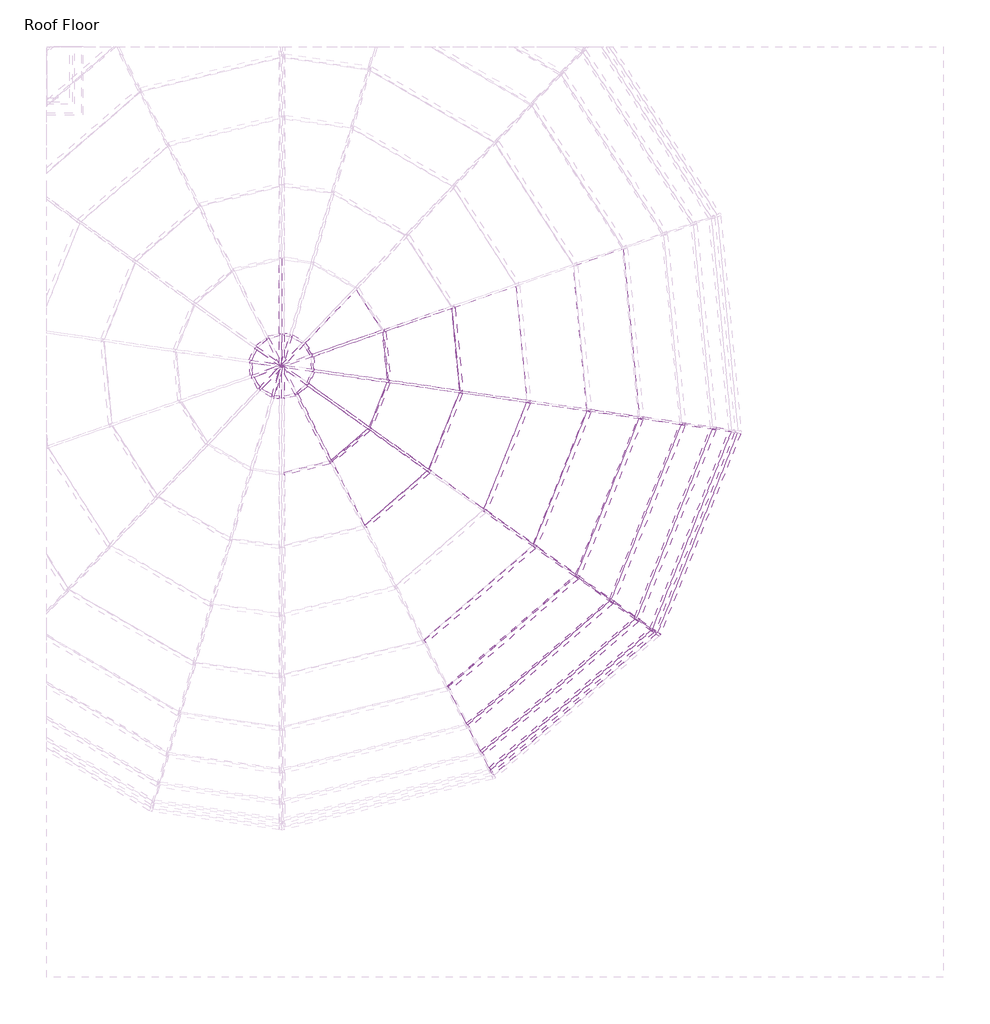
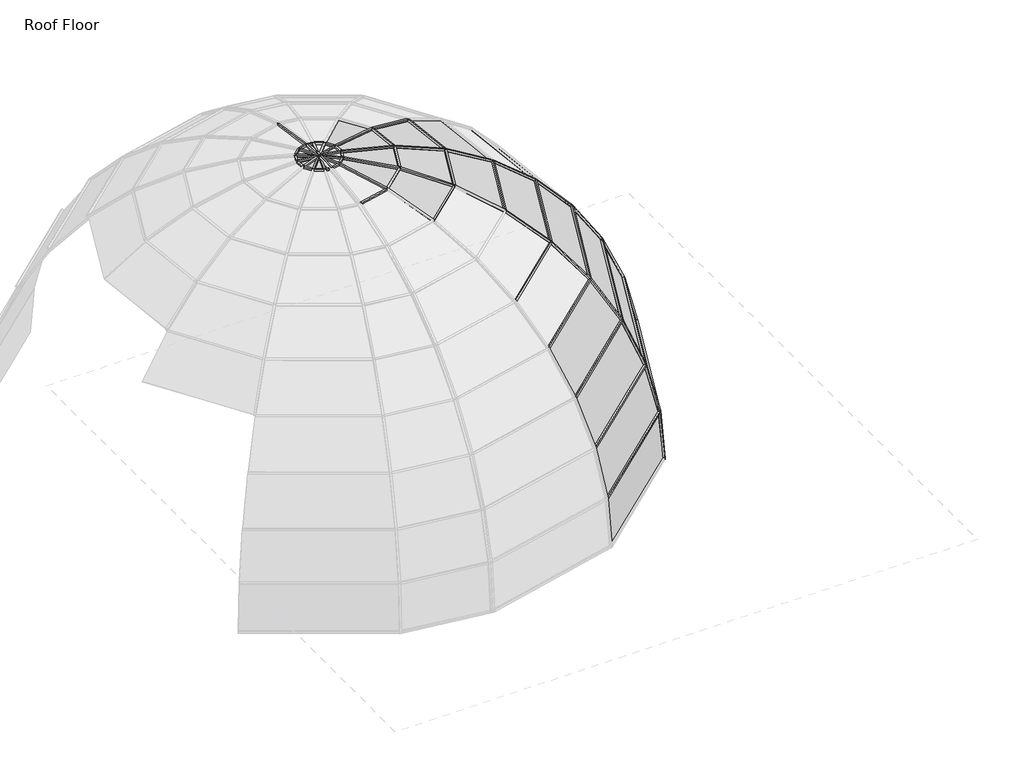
# One storey, part 3 of 5: 68 members, 25 plates.
"""IFC4 building model written with IfcOpenShell, lengths in millimetres."""

from ifc_helpers import new_model, si_unit, origin, place, context, project, spatial, transform, mapped, element, save
from components import member_e5884c93, member_1644e863, member_ecfbb555, member_3542fcca, member_2c5cd547, member_c2b6c823, member_dee8aa16, member_df6d12cb, member_6952dcc5, member_16c772f1, member_16816f3b, member_95e271e4, member_1143d828, member_7f7bd10d, member_27f65fe7, member_dc070f92, member_3534141e, member_d896c3fe, member_8ccf5568, member_fbc4017a, system_panel_glazed_e103372f, system_panel_glazed_c16507b5, system_panel_glazed_afa622ac, system_panel_glazed_079f8796, system_panel_glazed_c9cd471f, system_panel_glazed_44273b71, system_panel_glazed_224b1453, system_panel_glazed_17e44092, system_panel_glazed_1d538f7b, system_panel_glazed_72ef945e, system_panel_glazed_cac35f12, system_panel_glazed_1ef52394, system_panel_glazed_6927b413, system_panel_glazed_f7af2f91

model = new_model("IFC4")

# Units and contexts
model_context = context("Model", 3, world=origin())
ifc_project = project(units=[si_unit("LENGTHUNIT", "METRE", prefix="MILLI")], contexts=[model_context])

# Site, building, storey
site = spatial("IfcSite", under=ifc_project)
building = spatial("IfcBuilding", under=site)
storey = spatial("IfcBuildingStorey", under=building, Name="Roof Floor", Elevation=15240.0)

# Members
placement = place(None, origin())
member_shape = member_e5884c93(model_context)
element("IfcMember", 1, ObjectType="Rectangular Mullion : 1\" Square", at=placement, inside=storey, context=model_context, shape_type="MappedRepresentation", body=[
    mapped(member_shape, transform((443.8592683, -2777.9023232, 21117.9670279), x_axis=(-0.41239046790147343, 0.4760922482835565, 0.7767047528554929), y_axis=(0.5085307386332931, -0.5870832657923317, 0.6298648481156), z_axis=(0.7558641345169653, 0.6547285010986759, 0.0))),
])
element("IfcMember", 2, ObjectType="Rectangular Mullion : 1\" Square", at=placement, inside=storey, context=model_context, shape_type="MappedRepresentation", body=[
    mapped(member_shape, transform((1078.3289079, -1210.0551724, 21117.9670279), x_axis=(-0.5846780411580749, 0.23426761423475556, 0.7767047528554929), y_axis=(0.7209835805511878, -0.28888224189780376, 0.6298648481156), z_axis=(0.37193314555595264, 0.9282595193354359, 0.0))),
])
member_2_shape = member_1644e863(model_context)
element("IfcMember", 3, ObjectType="Rectangular Mullion : 1\" Square", at=placement, inside=storey, context=model_context, shape_type="MappedRepresentation", body=[
    mapped(member_2_shape, transform((786.0441912, -3021.6914235, 20482.2624164), x_axis=(-0.32116850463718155, 0.370779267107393, 0.8714204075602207), y_axis=(0.5705437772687, -0.6586754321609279, 0.4905369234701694), z_axis=(0.7558641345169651, 0.6547285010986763, 0.0))),
])
element("IfcMember", 4, ObjectType="Rectangular Mullion : 1\" Square", at=placement, inside=storey, context=model_context, shape_type="MappedRepresentation", body=[
    mapped(member_2_shape, transform((1494.1786406, -1269.9938637, 20482.2624164), x_axis=(-0.4553455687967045, 0.1824469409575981, 0.8714204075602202), y_axis=(0.8089042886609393, -0.3241101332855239, 0.49053692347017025), z_axis=(0.3719331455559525, 0.928259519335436, 0.0))),
])
member_3_shape = member_ecfbb555(model_context)
element("IfcMember", 5, ObjectType="Rectangular Mullion : 1\" Square", at=placement, inside=storey, context=model_context, shape_type="MappedRepresentation", body=[
    mapped(member_3_shape, transform((1037.4860785, -3200.8307935, 19785.6060711), x_axis=(-0.21998759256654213, 0.25396898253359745, 0.9418626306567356), y_axis=(0.61666430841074, -0.711920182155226, 0.3359981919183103), z_axis=(0.7558641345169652, 0.6547285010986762, 0.0))),
])
element("IfcMember", 6, ObjectType="Rectangular Mullion : 1\" Square", at=placement, inside=storey, context=model_context, shape_type="MappedRepresentation", body=[
    mapped(member_3_shape, transform((1799.7503787, -1314.0375859, 19785.6060711), x_axis=(-0.3118935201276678, 0.12496886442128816, 0.9418626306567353), y_axis=(0.8742929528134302, -0.3503099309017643, 0.3359981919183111), z_axis=(0.3719331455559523, 0.928259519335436, 0.0))),
])
member_4_shape = member_3542fcca(model_context)
element("IfcMember", 7, ObjectType="Rectangular Mullion : 1\" Square", at=placement, inside=storey, context=model_context, shape_type="MappedRepresentation", body=[
    mapped(member_4_shape, transform((1191.2004334, -3310.3443394, 19047.3495572), x_axis=(-0.1118037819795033, 0.12907406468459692, 0.9853120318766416), y_axis=(0.6451118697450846, -0.7447620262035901, 0.17076357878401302), z_axis=(0.755864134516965, 0.6547285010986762, 0.0))),
])
element("IfcMember", 8, ObjectType="Rectangular Mullion : 1\" Square", at=placement, inside=storey, context=model_context, shape_type="MappedRepresentation", body=[
    mapped(member_4_shape, transform((1986.5560183, -1340.9629021, 19047.3495572), x_axis=(-0.1585129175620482, 0.0635126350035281, 0.9853120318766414), y_axis=(0.9146252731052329, -0.36647020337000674, 0.17076357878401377), z_axis=(0.37193314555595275, 0.928259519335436, 0.0))),
])
member_5_shape = member_2c5cd547(model_context)
element("IfcMember", 9, ObjectType="Rectangular Mullion : 1\" Square", at=placement, inside=storey, context=model_context, shape_type="MappedRepresentation", body=[
    mapped(member_5_shape, transform((-2778.6228692, -629.1922106, 22849.1034008), x_axis=(0.9261696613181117, -0.37109578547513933, 0.0670647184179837), y_axis=(-0.062253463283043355, 0.024943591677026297, 0.9977486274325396), z_axis=(-0.37193314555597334, -0.9282595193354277, 0.0))),
])
element("IfcMember", 10, ObjectType="Rectangular Mullion : 1\" Square", at=placement, inside=storey, context=model_context, shape_type="MappedRepresentation", body=[
    mapped(member_5_shape, transform((-2718.4357175, -494.6219605, 22849.1034008), x_axis=(0.6532544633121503, -0.754162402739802, 0.06706471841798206), y_axis=(-0.04390918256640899, 0.05069181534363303, 0.9977486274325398), z_axis=(-0.7558641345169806, -0.6547285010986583, 0.0))),
])
element("IfcMember", 11, ObjectType="Rectangular Mullion : 1\" Square", at=placement, inside=storey, context=model_context, shape_type="MappedRepresentation", body=[
    mapped(member_5_shape, transform((-2571.1893455, -982.2556366, 22849.1034008), x_axis=(0.4994285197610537, 0.863755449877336, 0.06706471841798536), y_axis=(-0.03356961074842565, -0.05805822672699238, 0.9977486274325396), z_axis=(0.865704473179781, -0.5005554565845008, 0.0))),
])
element("IfcMember", 12, ObjectType="Rectangular Mullion : 1\" Square", at=placement, inside=storey, context=model_context, shape_type="MappedRepresentation", body=[
    mapped(member_5_shape, transform((-2695.796785, -903.4861534, 22849.1034008), x_axis=(0.83964256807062, 0.5389830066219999, 0.06706471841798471), y_axis=(-0.0564374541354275, -0.03622830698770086, 0.9977486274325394), z_axis=(0.5401991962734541, -0.841537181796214, 0.0))),
])
element("IfcMember", 13, ObjectType="Rectangular Mullion : 1\" Square", at=placement, inside=storey, context=model_context, shape_type="MappedRepresentation", body=[
    mapped(member_5_shape, transform((-2770.4728536, -776.38332, 22849.1034008), x_axis=(0.9932693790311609, 0.0944365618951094, 0.06706471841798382), y_axis=(-0.06676364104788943, -0.006347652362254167, 0.9977486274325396), z_axis=(0.09464965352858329, -0.9955106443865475, 0.0))),
])
element("IfcMember", 14, ObjectType="Rectangular Mullion : 1\" Square", at=placement, inside=storey, context=model_context, shape_type="MappedRepresentation", body=[
    mapped(member_5_shape, transform((-2223.7755139, -877.3501947, 22849.1034008), x_axis=(-0.6532544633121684, 0.7541624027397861, 0.0670647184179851), y_axis=(0.043909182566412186, -0.05069181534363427, 0.9977486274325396), z_axis=(0.7558641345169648, 0.6547285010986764, 0.0))),
])
element("IfcMember", 15, ObjectType="Rectangular Mullion : 1\" Square", at=placement, inside=storey, context=model_context, shape_type="MappedRepresentation", body=[
    mapped(member_5_shape, transform((-2163.5883622, -742.7799446, 22849.1034008), x_axis=(-0.9261696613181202, 0.37109578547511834, 0.06706471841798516), y_axis=(0.06225346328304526, -0.02494359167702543, 0.9977486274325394), z_axis=(0.3719331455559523, 0.928259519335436, 0.0))),
])
element("IfcMember", 16, ObjectType="Rectangular Mullion : 1\" Square", at=placement, inside=storey, context=model_context, shape_type="MappedRepresentation", body=[
    mapped(member_5_shape, transform((-2171.7383778, -595.5888351, 22849.1034008), x_axis=(-0.9932693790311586, -0.09443656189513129, 0.06706471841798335), y_axis=(0.06676364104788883, 0.006347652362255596, 0.9977486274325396), z_axis=(-0.09464965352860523, 0.9955106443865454, 0.0))),
])
element("IfcMember", 17, ObjectType="Rectangular Mullion : 1\" Square", at=placement, inside=storey, context=model_context, shape_type="MappedRepresentation", body=[
    mapped(member_5_shape, transform((-2246.4144464, -468.4860018, 22849.1034008), x_axis=(-0.8396425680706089, -0.5389830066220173, 0.06706471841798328), y_axis=(0.05643745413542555, 0.036228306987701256, 0.9977486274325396), z_axis=(-0.5401991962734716, 0.8415371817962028, 0.0))),
])
element("IfcMember", 18, ObjectType="Rectangular Mullion : 1\" Square", at=placement, inside=storey, context=model_context, shape_type="MappedRepresentation", body=[
    mapped(member_5_shape, transform((-2371.0218859, -389.7165186, 22849.1034008), x_axis=(-0.49942851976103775, -0.8637554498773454, 0.06706471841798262), y_axis=(0.03356961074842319, 0.05805822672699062, 0.9977486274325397), z_axis=(-0.86570447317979, 0.5005554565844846, 0.0))),
])
member_6_shape = member_c2b6c823(model_context)
element("IfcMember", 19, ObjectType="Rectangular Mullion : 1\" Square", at=placement, inside=storey, context=model_context, shape_type="MappedRepresentation", body=[
    mapped(member_6_shape, transform((-2603.2863208, -402.5770697, 22849.1034008), x_axis=(0.23517160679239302, -0.9696373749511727, 0.06706471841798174), y_axis=(-0.015807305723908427, 0.0651751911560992, 0.9977486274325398), z_axis=(-0.9718253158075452, -0.2357022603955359, 0.0))),
])
element("IfcMember", 20, ObjectType="Rectangular Mullion : 1\" Square", at=placement, inside=storey, context=model_context, shape_type="MappedRepresentation", body=[
    mapped(member_6_shape, transform((-2338.9249106, -969.3950855, 22849.1034008), x_axis=(-0.23517160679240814, 0.9696373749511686, 0.06706471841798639), y_axis=(0.015807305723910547, -0.06517519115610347, 0.9977486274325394), z_axis=(0.9718253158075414, 0.23570226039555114, 0.0))),
])
member_7_shape = member_dee8aa16(model_context)
element("IfcMember", 21, ObjectType="Rectangular Mullion : 1\" Square", at=placement, inside=storey, context=model_context, shape_type="MappedRepresentation", body=[
    mapped(member_7_shape, transform((-1610.3728189, -1314.3679625, 22733.3596998), x_axis=(-0.6375613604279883, 0.7360451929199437, 0.22749282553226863), y_axis=(0.14894603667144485, -0.1719536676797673, 0.9737797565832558), z_axis=(0.7558641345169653, 0.6547285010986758, 0.0))),
])
element("IfcMember", 22, ObjectType="Rectangular Mullion : 1\" Square", at=placement, inside=storey, context=model_context, shape_type="MappedRepresentation", body=[
    mapped(member_7_shape, transform((-1418.133698, -850.2263934, 22733.3596998), x_axis=(-0.9039203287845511, 0.3621809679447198, 0.2274928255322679), y_axis=(0.21117238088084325, -0.08461212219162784, 0.973779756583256), z_axis=(0.3719331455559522, 0.9282595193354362, 0.0))),
])
element("IfcMember", 23, ObjectType="Rectangular Mullion : 1\" Square", at=placement, inside=storey, context=model_context, shape_type="MappedRepresentation", body=[
    mapped(member_7_shape, transform((-1459.8883366, -349.5869764, 22733.3596998), x_axis=(-0.9694081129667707, -0.09216791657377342, 0.22749282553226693), y_axis=(0.22647152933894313, 0.021532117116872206, 0.9737797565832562), z_axis=(-0.09464965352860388, 0.9955106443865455, 0.0))),
])
member_8_shape = member_df6d12cb(model_context)
element("IfcMember", 24, ObjectType="Rectangular Mullion : 1\" Square", at=placement, inside=storey, context=model_context, shape_type="MappedRepresentation", body=[
    mapped(member_8_shape, transform((-1993.8858946, -1638.8691127, 22733.3596998), x_axis=(-0.2295220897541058, 0.9463438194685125, 0.22749282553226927), y_axis=(0.053620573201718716, -0.22108328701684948, 0.9737797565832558), z_axis=(0.9718253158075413, 0.23570226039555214, 0.0))),
])
member_9_shape = member_6952dcc5(model_context)
element("IfcMember", 25, ObjectType="Rectangular Mullion : 1\" Square", at=placement, inside=storey, context=model_context, shape_type="MappedRepresentation", body=[
    mapped(member_9_shape, transform((1257.240438, -3327.0860706, 18288.0), x_axis=(0.07519001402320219, -0.030126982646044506, -0.9967140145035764), y_axis=(0.9252092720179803, -0.3707109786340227, 0.08100106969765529), z_axis=(-0.3719331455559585, -0.9282595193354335, 0.0))),
])
member_10_shape = member_16c772f1(model_context)
element("IfcMember", 26, ObjectType="Rectangular Mullion : 1\" Square", at=placement, inside=storey, context=model_context, shape_type="MappedRepresentation", body=[
    mapped(member_10_shape, transform((-1021.1460202, -1734.1616515, 22494.1337848), x_axis=(-0.6049222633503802, 0.6983643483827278, 0.3825654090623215), y_axis=(0.250476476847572, -0.28916747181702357, 0.923928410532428), z_axis=(0.7558641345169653, 0.6547285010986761, 0.0))),
])
element("IfcMember", 27, ObjectType="Rectangular Mullion : 1\" Square", at=placement, inside=storey, context=model_context, shape_type="MappedRepresentation", body=[
    mapped(member_10_shape, transform((-702.0594635, -953.4380805, 22494.1337848), x_axis=(-0.8576453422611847, 0.3436395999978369, 0.3825654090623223), y_axis=(0.3551199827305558, -0.1422887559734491, 0.9239284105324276), z_axis=(0.37193314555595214, 0.9282595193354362, 0.0))),
])
element("IfcMember", 28, ObjectType="Rectangular Mullion : 1\" Square", at=placement, inside=storey, context=model_context, shape_type="MappedRepresentation", body=[
    mapped(member_10_shape, transform((-776.094274, -113.2807311, 22494.1337848), x_axis=(-0.9197805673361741, -0.08744950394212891, 0.38256540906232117), y_axis=(0.38084793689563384, 0.036209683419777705, 0.9239284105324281), z_axis=(-0.09464965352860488, 0.9955106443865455, 0.0))),
])
member_11_shape = member_16816f3b(model_context)
element("IfcMember", 29, ObjectType="Rectangular Mullion : 1\" Square", at=placement, inside=storey, context=model_context, shape_type="MappedRepresentation", body=[
    mapped(member_11_shape, transform((-35.2566097, -1049.5480147, 22138.0708204), x_axis=(-0.7880786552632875, 0.31576576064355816, 0.5284165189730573), y_axis=(0.49050766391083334, -0.19653561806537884, 0.8489852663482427), z_axis=(0.3719331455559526, 0.928259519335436, 0.0))),
])
member_12_shape = member_95e271e4(model_context)
element("IfcMember", 30, ObjectType="Rectangular Mullion : 1\" Square", at=placement, inside=storey, context=model_context, shape_type="MappedRepresentation", body=[
    mapped(member_12_shape, transform((20.4364465, -2476.2354119, 21675.0614442), x_axis=(-0.49123616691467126, 0.567117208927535, 0.6611089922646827), y_axis=(0.4328468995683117, -0.49970857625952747, 0.7502898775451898), z_axis=(0.7558641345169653, 0.6547285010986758, 0.0))),
])
element("IfcMember", 31, ObjectType="Rectangular Mullion : 1\" Square", at=placement, inside=storey, context=model_context, shape_type="MappedRepresentation", body=[
    mapped(member_12_shape, transform((563.752562, -1135.8864755, 21675.0614442), x_axis=(-0.6964637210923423, 0.2790576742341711, 0.661108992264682), y_axis=(0.6136807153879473, -0.245888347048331, 0.7502898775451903), z_axis=(0.3719331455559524, 0.9282595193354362, 0.0))),
])
member_13_shape = member_1143d828(model_context)
element("IfcMember", 32, ObjectType="Rectangular Mullion : 1\" Square", at=placement, inside=storey, context=model_context, shape_type="MappedRepresentation", body=[
    mapped(member_13_shape, transform((-2496.2458139, -997.8300214, 22849.1034008), x_axis=(0.1423280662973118, 0.9874604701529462, 0.06829744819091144), y_axis=(-0.00974339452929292, -0.06759887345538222, 0.9976650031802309), z_axis=(0.9897715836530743, -0.14266117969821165, 0.0))),
])
element("IfcMember", 33, ObjectType="Rectangular Mullion : 1\" Square", at=placement, inside=storey, context=model_context, shape_type="MappedRepresentation", body=[
    mapped(member_13_shape, transform((-2445.9654175, -374.1421337, 22849.1034008), x_axis=(-0.14232806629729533, -0.9874604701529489, 0.06829744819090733), y_axis=(0.009743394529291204, 0.06759887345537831, 0.9976650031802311), z_axis=(-0.9897715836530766, 0.1426611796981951, 0.0))),
])
member_14_shape = member_7f7bd10d(model_context)
element("IfcMember", 34, ObjectType="Rectangular Mullion : 1\" Square", at=placement, inside=storey, context=model_context, shape_type="MappedRepresentation", body=[
    mapped(member_14_shape, transform((1200.7999079, -3302.0292875, 19047.3495572), x_axis=(0.5802469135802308, 0.8144406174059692, 0.0), y_axis=(0.7890631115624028, -0.5621667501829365, 0.24768518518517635), z_axis=(0.20172487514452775, -0.1437185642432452, -0.9688405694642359))),
])
element("IfcMember", 35, ObjectType="Rectangular Mullion : 1\" Square", at=placement, inside=storey, context=model_context, shape_type="MappedRepresentation", body=[
    mapped(member_14_shape, transform((1047.085553, -3192.5157415, 19785.6060711), x_axis=(0.5802469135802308, 0.8144406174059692, 0.0), y_axis=(0.744600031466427, -0.5304890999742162, 0.4051568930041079), z_axis=(0.32997623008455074, -0.23509103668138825, -0.9142471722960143))),
])
element("IfcMember", 36, ObjectType="Rectangular Mullion : 1\" Square", at=placement, inside=storey, context=model_context, shape_type="MappedRepresentation", body=[
    mapped(member_14_shape, transform((795.6436657, -3013.3763715, 20482.2624164), x_axis=(0.5802469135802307, 0.8144406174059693, 0.0), y_axis=(0.6794536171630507, -0.48407564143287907, 0.551374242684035), z_axis=(0.4490615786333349, -0.3199332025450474, -0.8342580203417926))),
])
element("IfcMember", 37, ObjectType="Rectangular Mullion : 1\" Square", at=placement, inside=storey, context=model_context, shape_type="MappedRepresentation", body=[
    mapped(member_14_shape, transform((453.4587428, -2769.5872712, 21117.9670279), x_axis=(0.5802469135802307, 0.8144406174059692, 0.0), y_axis=(0.595433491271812, -0.42421563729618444, 0.6822756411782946), z_axis=(0.5556729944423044, -0.3958883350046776, -0.7310950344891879))),
])
element("IfcMember", 38, ObjectType="Rectangular Mullion : 1\" Square", at=placement, inside=storey, context=model_context, shape_type="MappedRepresentation", body=[
    mapped(member_14_shape, transform((30.035921, -2467.9203599, 21675.0614442), x_axis=(0.5802469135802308, 0.814440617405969, 0.0), y_axis=(0.4948735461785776, -0.3525718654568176, 0.7942249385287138), z_axis=(0.6468490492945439, -0.4608465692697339, -0.6076238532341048))),
])
element("IfcMember", 39, ObjectType="Rectangular Mullion : 1\" Square", at=placement, inside=storey, context=model_context, shape_type="MappedRepresentation", body=[
    mapped(member_14_shape, transform((-1011.5465457, -1725.8465996, 22494.1337848), x_axis=(0.5802469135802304, 0.8144406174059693, 0.0), y_axis=(0.25568937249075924, -0.18216548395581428, 0.9494412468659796), z_axis=(0.773263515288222, -0.5509103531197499, -0.313944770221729))),
])
element("IfcMember", 40, ObjectType="Rectangular Mullion : 1\" Square", at=placement, inside=storey, context=model_context, shape_type="MappedRepresentation", body=[
    mapped(member_14_shape, transform((1991.2795692, -1329.1740062, 19047.3495572), x_axis=(0.1426611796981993, 0.989771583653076, 0.0), y_axis=(0.9589308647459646, -0.1382159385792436, 0.24768518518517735), z_axis=(0.24515175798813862, -0.03533506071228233, -0.9688405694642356))),
])
element("IfcMember", 41, ObjectType="Rectangular Mullion : 1\" Square", at=placement, inside=storey, context=model_context, shape_type="MappedRepresentation", body=[
    mapped(member_14_shape, transform((1804.4739296, -1302.24869, 19785.6060711), x_axis=(0.14266117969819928, 0.9897715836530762, 0.0), y_axis=(0.9048958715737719, -0.13042758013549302, 0.40515689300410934), z_axis=(0.4010127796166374, -0.05780016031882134, -0.9142471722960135))),
])
element("IfcMember", 42, ObjectType="Rectangular Mullion : 1\" Square", at=placement, inside=storey, context=model_context, shape_type="MappedRepresentation", body=[
    mapped(member_14_shape, transform((1498.9021915, -1258.2049678, 20482.2624164), x_axis=(0.14266117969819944, 0.9897715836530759, 0.0), y_axis=(0.825724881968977, -0.1190162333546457, 0.5513742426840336), z_axis=(0.5457345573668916, -0.0786596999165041, -0.8342580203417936))),
])
element("IfcMember", 43, ObjectType="Rectangular Mullion : 1\" Square", at=placement, inside=storey, context=model_context, shape_type="MappedRepresentation", body=[
    mapped(member_14_shape, transform((1083.0524588, -1198.2662765, 21117.9670279), x_axis=(0.1426611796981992, 0.9897715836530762, 0.0), y_axis=(0.7236170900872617, -0.10429888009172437, 0.6822756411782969), z_axis=(0.6752970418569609, -0.09733424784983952, -0.731095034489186))),
])
element("IfcMember", 44, ObjectType="Rectangular Mullion : 1\" Square", at=placement, inside=storey, context=model_context, shape_type="MappedRepresentation", body=[
    mapped(member_14_shape, transform((568.4761129, -1124.0975796, 21675.0614442), x_axis=(0.1426611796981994, 0.989771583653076, 0.0), y_axis=(0.6014088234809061, -0.08668433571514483, 0.7942249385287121), z_axis=(0.7861012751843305, -0.11330506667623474, -0.607623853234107))),
])
element("IfcMember", 45, ObjectType="Rectangular Mullion : 1\" Square", at=placement, inside=storey, context=model_context, shape_type="MappedRepresentation", body=[
    mapped(member_14_shape, transform((-30.5330588, -1037.7591188, 22138.0708204), x_axis=(0.14266117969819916, 0.9897715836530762, 0.0), y_axis=(0.4624947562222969, -0.0666618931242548, 0.8841124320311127), z_axis=(0.875069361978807, -0.12612852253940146, -0.4672742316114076))),
])
element("IfcMember", 46, ObjectType="Rectangular Mullion : 1\" Square", at=placement, inside=storey, context=model_context, shape_type="MappedRepresentation", body=[
    mapped(member_14_shape, transform((-697.3359126, -941.6491846, 22494.1337848), x_axis=(0.14266117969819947, 0.989771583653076, 0.0), y_axis=(0.31073361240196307, -0.0447877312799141, 0.9494412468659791), z_axis=(0.9397299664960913, -0.1354484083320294, -0.31394477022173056))),
])
element("IfcMember", 47, ObjectType="Rectangular Mullion : 1\" Square", at=placement, inside=storey, context=model_context, shape_type="MappedRepresentation", body=[
    mapped(member_14_shape, transform((-777.2963246, -100.6377459, 22494.1337848), x_axis=(-0.32662703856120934, 0.9451533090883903, 0.0), y_axis=(0.29672593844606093, 0.10254285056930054, 0.94944124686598), z_axis=(0.897367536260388, 0.31011318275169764, -0.31394477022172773))),
])
member_15_shape = member_27f65fe7(model_context)
element("IfcMember", 48, ObjectType="Rectangular Mullion : 1\" Square", at=placement, inside=storey, context=model_context, shape_type="MappedRepresentation", body=[
    mapped(member_15_shape, transform((-1981.5437131, -1635.875694, 22733.3596998), x_axis=(0.8888888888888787, 0.458122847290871, 0.0), y_axis=(0.06958639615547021, -0.13501744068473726, 0.9883966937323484), z_axis=(0.4528071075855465, -0.8785748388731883, -0.1518946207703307))),
])
element("IfcMember", 49, ObjectType="Rectangular Mullion : 1\" Square", at=placement, inside=storey, context=model_context, shape_type="MappedRepresentation", body=[
    mapped(member_15_shape, transform((-1600.7733444, -1306.0529105, 22733.3596998), x_axis=(0.5802469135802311, 0.8144406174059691, 0.0), y_axis=(0.12370914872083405, -0.08813638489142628, 0.9883966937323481), z_axis=(0.8049904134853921, -0.5735141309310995, -0.1518946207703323))),
])
element("IfcMember", 50, ObjectType="Rectangular Mullion : 1\" Square", at=placement, inside=storey, context=model_context, shape_type="MappedRepresentation", body=[
    mapped(member_15_shape, transform((-1413.4101471, -838.4374975, 22733.3596998), x_axis=(0.14266117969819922, 0.9897715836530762, 0.0), y_axis=(0.15034097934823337, -0.021669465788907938, 0.9883966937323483), z_axis=(0.9782869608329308, -0.1410058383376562, -0.1518946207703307))),
])
element("IfcMember", 51, ObjectType="Rectangular Mullion : 1\" Square", at=placement, inside=storey, context=model_context, shape_type="MappedRepresentation", body=[
    mapped(member_15_shape, transform((-1461.0903872, -336.9439912, 22733.3596998), x_axis=(-0.32662703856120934, 0.9451533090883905, 0.0), y_axis=(0.14356370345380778, 0.04961289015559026, 0.9883966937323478), z_axis=(0.9341864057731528, 0.32283708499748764, -0.15189462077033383))),
])
member_16_shape = member_dc070f92(model_context)
element("IfcMember", 52, ObjectType="Rectangular Mullion : 1\" Square", at=placement, inside=storey, context=model_context, shape_type="MappedRepresentation", body=[
    mapped(member_16_shape, transform((-2615.6285023, -405.5704884, 22849.1034008), x_axis=(-0.888888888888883, -0.458122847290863, 0.0), y_axis=(-0.015941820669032, 0.030931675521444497, 0.9993943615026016), z_axis=(-0.45784539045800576, 0.8883505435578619, -0.03479813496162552))),
])
element("IfcMember", 53, ObjectType="Rectangular Mullion : 1\" Square", at=placement, inside=storey, context=model_context, shape_type="MappedRepresentation", body=[
    mapped(member_16_shape, transform((-2728.035192, -502.9370124, 22849.1034008), x_axis=(-0.5802469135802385, -0.8144406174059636, 0.0), y_axis=(-0.028341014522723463, 0.020191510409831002, 0.9993943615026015), z_axis=(-0.8139473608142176, 0.5798954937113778, -0.034798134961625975))),
])
element("IfcMember", 54, ObjectType="Rectangular Mullion : 1\" Square", at=placement, inside=storey, context=model_context, shape_type="MappedRepresentation", body=[
    mapped(member_16_shape, transform((-2783.3464202, -640.9811065, 22849.1034008), x_axis=(-0.14266117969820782, -0.9897715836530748, 0.0), y_axis=(-0.03444220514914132, 0.004964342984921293, 0.9993943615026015), z_axis=(-0.9891721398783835, 0.14257477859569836, -0.034798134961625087))),
])
element("IfcMember", 55, ObjectType="Rectangular Mullion : 1\" Square", at=placement, inside=storey, context=model_context, shape_type="MappedRepresentation", body=[
    mapped(member_16_shape, transform((-2326.582729, -966.4016667, 22849.1034008), x_axis=(0.8888888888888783, 0.45812284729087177, 0.0), y_axis=(0.01594182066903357, -0.030931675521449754, 0.9993943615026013), z_axis=(0.45784539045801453, -0.8883505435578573, -0.034798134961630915))),
])
element("IfcMember", 56, ObjectType="Rectangular Mullion : 1\" Square", at=placement, inside=storey, context=model_context, shape_type="MappedRepresentation", body=[
    mapped(member_16_shape, transform((-2214.1760394, -869.0351427, 22849.1034008), x_axis=(0.5802469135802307, 0.8144406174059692, 0.0), y_axis=(0.028341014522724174, -0.020191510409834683, 0.9993943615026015), z_axis=(0.8139473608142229, -0.5798954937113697, -0.03479813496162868))),
])
element("IfcMember", 57, ObjectType="Rectangular Mullion : 1\" Square", at=placement, inside=storey, context=model_context, shape_type="MappedRepresentation", body=[
    mapped(member_16_shape, transform((-2158.8648112, -730.9910487, 22849.1034008), x_axis=(0.1426611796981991, 0.9897715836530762, 0.0), y_axis=(0.034442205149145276, -0.004964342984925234, 0.9993943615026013), z_axis=(0.9891721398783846, -0.14257477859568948, -0.03479813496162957))),
])
element("IfcMember", 58, ObjectType="Rectangular Mullion : 1\" Square", at=placement, inside=storey, context=model_context, shape_type="MappedRepresentation", body=[
    mapped(member_16_shape, transform((-2172.9404284, -582.9458499, 22849.1034008), x_axis=(-0.32662703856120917, 0.9451533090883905, 0.0), y_axis=(0.03288957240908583, 0.011366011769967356, 0.9993943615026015), z_axis=(0.9445808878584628, 0.32642922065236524, -0.034798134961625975))),
])
element("IfcMember", 59, ObjectType="Rectangular Mullion : 1\" Square", at=placement, inside=storey, context=model_context, shape_type="MappedRepresentation", body=[
    mapped(member_16_shape, transform((-2253.2749761, -457.7984796, 22849.1034008), x_axis=(-0.7233314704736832, 0.6905009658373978, 0.0), y_axis=(0.024028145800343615, 0.025170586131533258, 0.9993943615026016), z_axis=(0.6900827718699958, 0.7228933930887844, -0.03479813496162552))),
])
element("IfcMember", 60, ObjectType="Rectangular Mullion : 1\" Square", at=placement, inside=storey, context=model_context, shape_type="MappedRepresentation", body=[
    mapped(member_16_shape, transform((-2382.0163327, -383.3594643, 22849.1034008), x_axis=(-0.9592955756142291, 0.28240396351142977, 0.0), y_axis=(0.009827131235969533, 0.0333816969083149, 0.9993943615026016), z_axis=(0.2822329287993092, 0.9587145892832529, -0.03479813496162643))),
])
member_17_shape = member_3534141e(model_context)
element("IfcMember", 61, ObjectType="Rectangular Mullion : 1\" Square", at=placement, inside=storey, context=model_context, shape_type="MappedRepresentation", body=[
    mapped(member_17_shape, transform((-2471.1056157, -370.5185398, 22849.1034008), x_axis=(0.9993221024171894, 0.005591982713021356, 0.036387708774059), y_axis=(-0.036814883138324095, 0.15179165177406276, 0.9877266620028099), z_axis=(0.0, -0.9883966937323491, 0.15189462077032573))),
])
member_18_shape = member_d896c3fe(model_context)
element("IfcMember", 62, ObjectType="Rectangular Mullion : 1\" Square", at=placement, inside=storey, context=model_context, shape_type="MappedRepresentation", body=[
    mapped(member_18_shape, transform((-2471.1056157, -683.4460776, 22859.9992944), x_axis=(0.9999649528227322, 0.00029133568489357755, 0.008367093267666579), y_axis=(-0.008372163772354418, 0.03479691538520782, 0.9993593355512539), z_axis=(0.0, -0.9993943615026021, 0.0347981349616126))),
])
element("IfcMember", 63, ObjectType="Rectangular Mullion : 1\" Square", at=placement, inside=storey, context=model_context, shape_type="MappedRepresentation", body=[
    mapped(member_18_shape, transform((-2471.1056157, -688.5260776, 22859.9992944), x_axis=(-0.9999649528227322, -0.00029133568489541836, 0.00836709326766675), y_axis=(0.008372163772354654, -0.034796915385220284, 0.9993593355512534), z_axis=(0.0, 0.9993943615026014, 0.03479813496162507))),
])
member_19_shape = member_8ccf5568(model_context)
element("IfcMember", 64, ObjectType="Rectangular Mullion : 1\" Square", at=placement, inside=storey, context=model_context, shape_type="MappedRepresentation", body=[
    mapped(member_19_shape, transform((1252.5168871, -3338.8749665, 18288.0), x_axis=(0.5802469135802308, 0.8144406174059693, 0.0), y_axis=(0.8116077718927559, -0.578228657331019, 0.0833333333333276), z_axis=(0.06787005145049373, -0.04835390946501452, -0.9965217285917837))),
])
element("IfcMember", 65, ObjectType="Rectangular Mullion : 1\" Square", at=placement, inside=storey, context=model_context, shape_type="MappedRepresentation", body=[
    mapped(member_16_shape, transform((-2769.270803, -789.0263052, 22849.1034008), x_axis=(0.3266270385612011, -0.9451533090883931, 0.0), y_axis=(-0.0328895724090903, -0.011366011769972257, 0.9993943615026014), z_axis=(-0.9445808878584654, -0.326429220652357, -0.0347981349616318))),
])
element("IfcMember", 66, ObjectType="Rectangular Mullion : 1\" Square", at=placement, inside=storey, context=model_context, shape_type="MappedRepresentation", body=[
    mapped(member_16_shape, transform((-2688.9362552, -914.1736756, 22849.1034008), x_axis=(0.7233314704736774, -0.6905009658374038, 0.0), y_axis=(-0.024028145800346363, -0.025170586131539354, 0.9993943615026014), z_axis=(-0.6900827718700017, -0.7228933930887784, -0.034798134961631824))),
])
element("IfcMember", 67, ObjectType="Rectangular Mullion : 1\" Square", at=placement, inside=storey, context=model_context, shape_type="MappedRepresentation", body=[
    mapped(member_16_shape, transform((-2560.1948987, -988.6126908, 22849.1034008), x_axis=(0.9592955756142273, -0.28240396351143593, 0.0), y_axis=(-0.009827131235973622, -0.03338169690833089, 0.9993943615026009), z_axis=(-0.2822329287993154, -0.9587145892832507, -0.03479813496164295))),
])
member_20_shape = member_fbc4017a(model_context)
element("IfcMember", 68, ObjectType="Rectangular Mullion : 1\" Square", at=placement, inside=storey, context=model_context, shape_type="MappedRepresentation", body=[
    mapped(member_20_shape, transform((-2471.1056157, -370.5185398, 22849.1034008), x_axis=(-0.9999876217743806, 0.00017314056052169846, 0.004972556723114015), y_axis=(0.004975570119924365, 0.03479770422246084, 0.999381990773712), z_axis=(0.0, 0.9993943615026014, -0.03479813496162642))),
])

# Plates
system_panel_glazed_shape = system_panel_glazed_e103372f(model_context)
element("IfcPlate", 69, ObjectType="System Panel : Glazed", at=placement, inside=storey, context=model_context, shape_type="MappedRepresentation", body=[
    mapped(system_panel_glazed_shape, transform((436.6274084, -4042.8753866, 18313.316536), x_axis=(0.7558641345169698, 0.654728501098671, 0.0), y_axis=(-0.6525770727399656, 0.7533803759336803, -0.08100106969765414), z_axis=(-0.05303370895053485, 0.06122580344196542, 0.9967140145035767))),
])
element("IfcPlate", 70, ObjectType="System Panel : Glazed", at=placement, inside=storey, context=model_context, shape_type="MappedRepresentation", body=[
    mapped(system_panel_glazed_shape, transform((1651.4136496, -2337.7887535, 18313.316536), x_axis=(0.37193314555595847, 0.9282595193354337, 0.0), y_axis=(-0.9252092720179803, 0.3707109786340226, -0.08100106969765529), z_axis=(-0.07519001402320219, 0.030126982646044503, 0.9967140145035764))),
])
system_panel_glazed_2_shape = system_panel_glazed_c16507b5(model_context)
element("IfcPlate", 71, ObjectType="System Panel : Glazed", at=placement, inside=storey, context=model_context, shape_type="MappedRepresentation", body=[
    mapped(system_panel_glazed_2_shape, transform((395.5656661, -3995.4708544, 19059.674854), x_axis=(0.7558641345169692, 0.6547285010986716, 0.0), y_axis=(-0.6354112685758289, 0.7335629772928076, -0.24111797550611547), z_axis=(-0.15786681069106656, 0.18225242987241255, 0.970495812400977))),
])
element("IfcPlate", 72, ObjectType="System Panel : Glazed", at=placement, inside=storey, context=model_context, shape_type="MappedRepresentation", body=[
    mapped(system_panel_glazed_2_shape, transform((1593.1972238, -2314.4627138, 19059.674854), x_axis=(0.3719331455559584, 0.9282595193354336, 0.0), y_axis=(-0.9008719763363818, 0.3609595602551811, -0.24111797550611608), z_axis=(-0.22382005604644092, 0.08967976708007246, 0.9704958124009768))),
])
system_panel_glazed_3_shape = system_panel_glazed_afa622ac(model_context)
element("IfcPlate", 73, ObjectType="System Panel : Glazed", at=placement, inside=storey, context=model_context, shape_type="MappedRepresentation", body=[
    mapped(system_panel_glazed_3_shape, transform((274.1922204, -3855.3489042, 19797.2703184), x_axis=(0.7558641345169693, 0.6547285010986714, 0.0), y_axis=(-0.6013319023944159, 0.6942193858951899, -0.3955494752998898), z_axis=(-0.2589775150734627, 0.29898166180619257, 0.9184446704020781))),
])
element("IfcPlate", 74, ObjectType="System Panel : Glazed", at=placement, inside=storey, context=model_context, shape_type="MappedRepresentation", body=[
    mapped(system_panel_glazed_3_shape, transform((1421.1166497, -2245.5138176, 19797.2703184), x_axis=(0.3719331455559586, 0.9282595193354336, 0.0), y_axis=(-0.8525550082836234, 0.3416000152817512, -0.39554947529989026), z_axis=(-0.36717256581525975, 0.14711796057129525, 0.9184446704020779))),
])
system_panel_glazed_4_shape = system_panel_glazed_079f8796(model_context)
element("IfcPlate", 75, ObjectType="System Panel : Glazed", at=placement, inside=storey, context=model_context, shape_type="MappedRepresentation", body=[
    mapped(system_panel_glazed_4_shape, transform((76.5486179, -3627.1753784, 20492.9481164), x_axis=(0.7558641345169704, 0.6547285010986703, 0.0), y_axis=(-0.5508844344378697, 0.6359793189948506, -0.5404226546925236), z_axis=(-0.3538301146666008, 0.40848610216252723, 0.8413936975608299))),
])
element("IfcPlate", 76, ObjectType="System Panel : Glazed", at=placement, inside=storey, context=model_context, shape_type="MappedRepresentation", body=[
    mapped(system_panel_glazed_4_shape, transform((1140.9019422, -2133.2379557, 20492.9481164), x_axis=(0.37193314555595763, 0.9282595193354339, 0.0), y_axis=(-0.7810317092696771, 0.31294220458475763, -0.5404226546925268), z_axis=(-0.5016524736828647, 0.2010010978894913, 0.8413936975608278))),
])
system_panel_glazed_5_shape = system_panel_glazed_c9cd471f(model_context)
element("IfcPlate", 77, ObjectType="System Panel : Glazed", at=placement, inside=storey, context=model_context, shape_type="MappedRepresentation", body=[
    mapped(system_panel_glazed_5_shape, transform((760.3358637, -1980.7535096, 21127.3743739), x_axis=(0.37193314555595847, 0.9282595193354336, 0.0), y_axis=(-0.6875951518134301, 0.2755042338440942, -0.6717963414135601), z_axis=(-0.6236013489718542, 0.24986332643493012, 0.7407359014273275))),
])
element("IfcPlate", 78, ObjectType="System Panel : Glazed", at=placement, inside=storey, context=model_context, shape_type="MappedRepresentation", body=[
    mapped(system_panel_glazed_5_shape, transform((994.4493529, -356.4932902, 21127.3743739), x_axis=(-0.09464965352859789, 0.9955106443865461, 0.0), y_axis=(-0.7374104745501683, -0.07011039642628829, -0.67179634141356), z_axis=(-0.6687804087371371, -0.06358529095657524, 0.7407359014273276))),
])
system_panel_glazed_6_shape = system_panel_glazed_44273b71(model_context)
element("IfcPlate", 79, ObjectType="System Panel : Glazed", at=placement, inside=storey, context=model_context, shape_type="MappedRepresentation", body=[
    mapped(system_panel_glazed_6_shape, transform((289.9930286, -1792.2974943, 21682.9171425), x_axis=(0.3719331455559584, 0.9282595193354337, 0.0), y_axis=(-0.5741832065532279, 0.2300625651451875, -0.7857384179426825), z_axis=(-0.7293691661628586, 0.2922421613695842, 0.6185589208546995))),
])
system_panel_glazed_7_shape = system_panel_glazed_224b1453(model_context)
element("IfcPlate", 80, ObjectType="System Panel : Glazed", at=placement, inside=storey, context=model_context, shape_type="MappedRepresentation", body=[
    mapped(system_panel_glazed_7_shape, transform((-257.0544702, -1573.1076096, 22144.1384086), x_axis=(0.37193314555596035, 0.9282595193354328, 0.0), y_axis=(-0.443487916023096, 0.17769584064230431, -0.8784888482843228), z_axis=(-0.8154656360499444, 0.32673912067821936, 0.47776285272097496))),
])
element("IfcPlate", 81, ObjectType="System Panel : Glazed", at=placement, inside=storey, context=model_context, shape_type="MappedRepresentation", body=[
    mapped(system_panel_glazed_7_shape, transform((-96.6495109, -460.2311357, 22144.1384086), x_axis=(-0.09464965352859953, 0.9955106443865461, 0.0), y_axis=(-0.47561800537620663, -0.04522008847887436, -0.878488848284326), z_axis=(-0.874544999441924, -0.08314866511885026, 0.4777628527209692))),
])
system_panel_glazed_8_shape = system_panel_glazed_17e44092(model_context)
element("IfcPlate", 82, ObjectType="System Panel : Glazed", at=placement, inside=storey, context=model_context, shape_type="MappedRepresentation", body=[
    mapped(system_panel_glazed_8_shape, transform((-1338.6969591, -1993.3174183, 22498.2246338), x_axis=(0.7558641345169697, 0.6547285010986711, 0.0), y_axis=(-0.21089727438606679, 0.24347448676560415, -0.9467008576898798), z_axis=(-0.6198320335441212, 0.7155772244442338, 0.32211408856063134))),
])
element("IfcPlate", 83, ObjectType="System Panel : Glazed", at=placement, inside=storey, context=model_context, shape_type="MappedRepresentation", body=[
    mapped(system_panel_glazed_8_shape, transform((-865.601787, -1329.2761024, 22498.2246338), x_axis=(0.37193314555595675, 0.9282595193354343, 0.0), y_axis=(-0.29900546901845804, 0.11980490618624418, -0.9467008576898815), z_axis=(-0.8787840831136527, 0.3521094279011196, 0.322114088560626))),
])
element("IfcPlate", 84, ObjectType="System Panel : Glazed", at=placement, inside=storey, context=model_context, shape_type="MappedRepresentation", body=[
    mapped(system_panel_glazed_8_shape, transform((-749.2852435, -522.2814476, 22498.2246338), x_axis=(-0.09464965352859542, 0.9955106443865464, 0.0), y_axis=(-0.3206680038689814, -0.030487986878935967, -0.9467008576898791), z_axis=(-0.9424507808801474, -0.08960490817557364, 0.3221140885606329))),
])
system_panel_glazed_9_shape = system_panel_glazed_1d538f7b(model_context)
element("IfcPlate", 85, ObjectType="System Panel : Glazed", at=placement, inside=storey, context=model_context, shape_type="MappedRepresentation", body=[
    mapped(system_panel_glazed_9_shape, transform((-1799.3715272, -1461.4826453, 22735.3433422), x_axis=(0.7558641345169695, 0.6547285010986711, 0.0), y_axis=(-0.10226356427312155, 0.11806017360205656, -0.9877266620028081), z_axis=(-0.6466927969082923, 0.7465871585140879, 0.15619232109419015))),
])
element("IfcPlate", 86, ObjectType="System Panel : Glazed", at=placement, inside=storey, context=model_context, shape_type="MappedRepresentation", body=[
    mapped(system_panel_glazed_9_shape, transform((-1518.7359525, -1067.5796268, 22735.3433422), x_axis=(0.3719331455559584, 0.9282595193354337, 0.0), y_axis=(-0.14498700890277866, 0.05809310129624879, -0.987726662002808), z_axis=(-0.916866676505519, 0.3673682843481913, 0.15619232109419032))),
])
element("IfcPlate", 87, ObjectType="System Panel : Glazed", at=placement, inside=storey, context=model_context, shape_type="MappedRepresentation", body=[
    mapped(system_panel_glazed_9_shape, transform((-1449.7380807, -588.8780418, 22735.3433422), x_axis=(-0.09464965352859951, 0.995510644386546, 0.0), y_axis=(-0.15549111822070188, -0.014783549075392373, -0.9877266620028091), z_axis=(-0.9832924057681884, -0.09348798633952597, 0.15619232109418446))),
])
element("IfcPlate", 88, ObjectType="System Panel : Glazed", at=placement, inside=storey, context=model_context, shape_type="MappedRepresentation", body=[
    mapped(system_panel_glazed_9_shape, transform((-1607.7107722, -131.7560202, 22735.3433422), x_axis=(-0.5401991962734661, 0.8415371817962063, 0.0), y_axis=(-0.13144164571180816, -0.08437496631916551, -0.9877266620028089), z_axis=(-0.831208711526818, -0.533569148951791, 0.15619232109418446))),
])
system_panel_glazed_10_shape = system_panel_glazed_72ef945e(model_context)
element("IfcPlate", 89, ObjectType="System Panel : Glazed", at=placement, inside=storey, context=model_context, shape_type="MappedRepresentation", body=[
    mapped(system_panel_glazed_10_shape, transform((-2643.3386245, -666.0007133, 22854.0533774), x_axis=(0.9994562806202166, 0.0004358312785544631, 0.03296897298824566), y_axis=(0.032971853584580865, -0.013211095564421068, -0.9993689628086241), z_axis=(0.0, 0.9999126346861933, -0.013218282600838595))),
])
system_panel_glazed_11_shape = system_panel_glazed_cac35f12(model_context)
element("IfcPlate", 90, ObjectType="System Panel : Glazed", at=placement, inside=storey, context=model_context, shape_type="MappedRepresentation", body=[
    mapped(system_panel_glazed_11_shape, transform((-2646.9619988, -771.7647802, 22853.489116), x_axis=(0.9993746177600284, -0.00011895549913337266, 0.03536041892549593), y_axis=(0.03536061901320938, 0.003361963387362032, -0.9993689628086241), z_axis=(0.0, 0.9999943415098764, 0.0033640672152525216))),
])
system_panel_glazed_12_shape = system_panel_glazed_1ef52394(model_context)
element("IfcPlate", 91, ObjectType="System Panel : Glazed", at=placement, inside=storey, context=model_context, shape_type="MappedRepresentation", body=[
    mapped(system_panel_glazed_12_shape, transform((-2633.1565754, -893.7609511, 22851.1637152), x_axis=(0.9995531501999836, -0.0005738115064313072, 0.02988596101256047), y_axis=(0.02989146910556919, 0.01918791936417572, -0.999368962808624), z_axis=(0.0, 0.9998157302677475, 0.019196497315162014))),
])
system_panel_glazed_13_shape = system_panel_glazed_6927b413(model_context)
element("IfcPlate", 92, ObjectType="System Panel : Glazed", at=placement, inside=storey, context=model_context, shape_type="MappedRepresentation", body=[
    mapped(system_panel_glazed_13_shape, transform((-2583.3398276, -969.5347484, 22849.2786445), x_axis=(0.9998419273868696, -0.0005468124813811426, 0.017771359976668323), y_axis=(0.01777977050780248, 0.030749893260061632, -0.999368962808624), z_axis=(0.0, 0.9995269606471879, 0.030754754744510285))),
])
system_panel_glazed_14_shape = system_panel_glazed_f7af2f91(model_context)
element("IfcPlate", 93, ObjectType="System Panel : Glazed", at=placement, inside=storey, context=model_context, shape_type="MappedRepresentation", body=[
    mapped(system_panel_glazed_14_shape, transform((-2520.1893667, -984.9651184, 22849.4285635), x_axis=(0.9999876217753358, -0.00017175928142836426, 0.004972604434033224), y_axis=(0.00497556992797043, 0.03452009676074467, -0.9993916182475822), z_axis=(0.0, 0.9994039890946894, 0.03452052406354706))),
])

save(model, "model.ifc")
